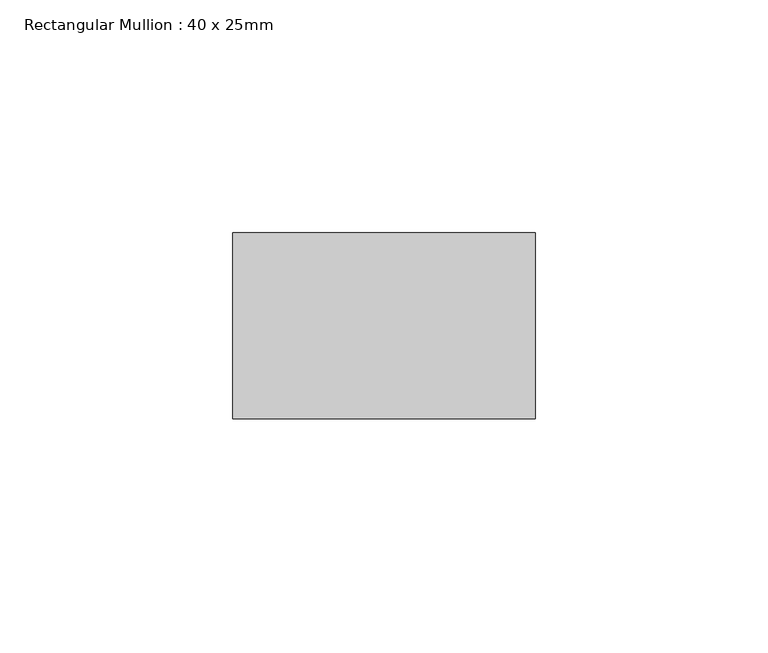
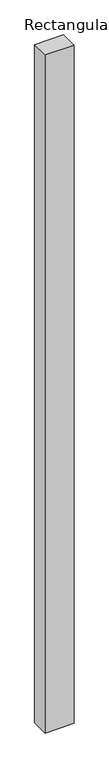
"""IFC4 building model written with IfcOpenShell, lengths in millimetres: member geometry, Rectangular Mullion : 40 x 25mm."""

from ifc_helpers import new_model, si_unit, frame, origin, place, context, project, spatial, polyline, outline, extrude, source, transform, mapped, element, save


def rectangular_mullion_40_x_25mm_eadb2c51(model_context):
    return source(origin(), model_context, "Body", "SweptSolid", [
        extrude(outline(polyline([(0.0, -20.0), (0.0, -60.0), (-65.0, -60.0), (-65.0, -20.0), (0.0, -20.0)])), frame((0.0, 0.0, -1605.0666667), z_axis=(0.0, 0.0, 1.0), x_axis=(1.0, 0.0, 0.0)), (0.0, 0.0, 1.0), 1605.0666667),
    ])


if __name__ == "__main__":
    model = new_model("IFC4")
    model_context = context("Model", 3, world=origin())
    ifc_project = project(units=[si_unit("LENGTHUNIT", "METRE", prefix="MILLI")], contexts=[model_context])
    site = spatial("IfcSite", under=ifc_project)
    building = spatial("IfcBuilding", under=site)
    placement = place(None, origin())
    rectangular_mullion_40_x_25mm_shape = rectangular_mullion_40_x_25mm_eadb2c51(model_context)
    element("IfcMember", 1, ObjectType="Rectangular Mullion : 40 x 25mm", at=placement, inside=building, context=model_context, shape_type="MappedRepresentation", body=[
        mapped(rectangular_mullion_40_x_25mm_shape, transform((0.0, 0.0, 0.0), x_axis=(1.0, 0.0, 0.0), y_axis=(0.0, 1.0, 0.0), z_axis=(0.0, 0.0, 1.0))),
    ])
    save(model, "model.ifc")
